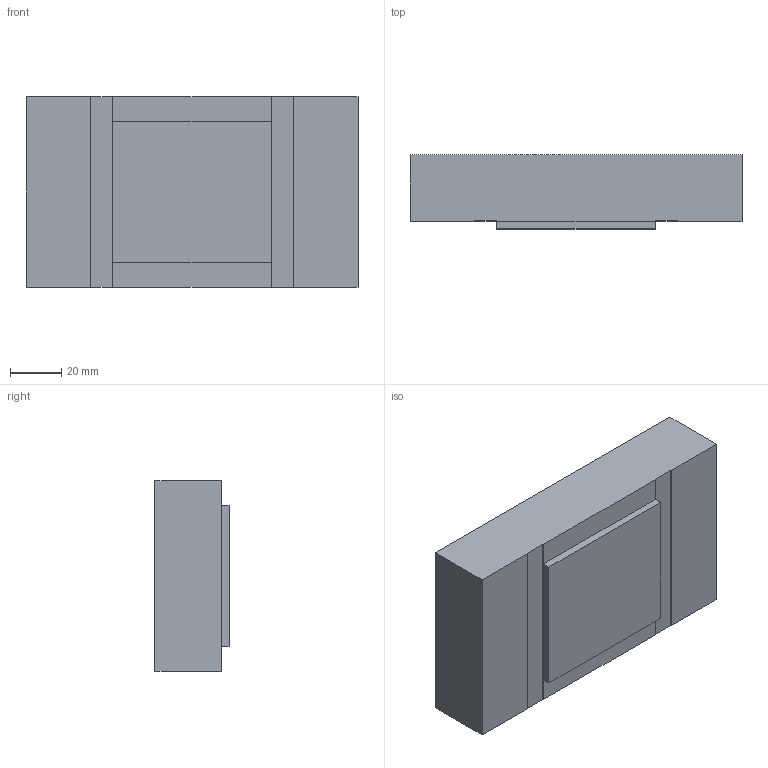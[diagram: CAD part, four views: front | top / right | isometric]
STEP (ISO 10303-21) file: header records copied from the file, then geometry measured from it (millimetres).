
FILE_DESCRIPTION (( 'STEP AP203' ), '1' );
FILE_NAME ('05-0501, 05-0503.STEP', '2021-07-19T17:19:04', ( '' ), ( '' ), 'SwSTEP 2.0', 'SolidWorks 2020', '' );
FILE_SCHEMA (( 'CONFIG_CONTROL_DESIGN' ));
Length unit declared in the file: inch
Products named in the file (1): 05-0501, 05-0503
Bounding box: 130 x 29 x 74.4 mm (x, y, z)
Volume: 261606.4 mm3; surface area: 30698.3 mm2
Topology: 1 solids, 1 shells, 20 faces, 50 edges, 32 vertices
Faces by surface type: plane 16, cylinder 4
Entity records: 669 total; most frequent: CARTESIAN_POINT 103, ORIENTED_EDGE 100, DIRECTION 100, EDGE_CURVE 50, VECTOR 42, LINE 42, VERTEX_POINT 32, AXIS2_PLACEMENT_3D 29
